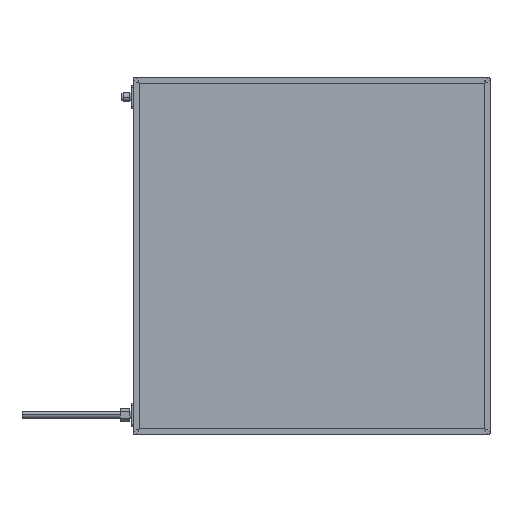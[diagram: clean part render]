
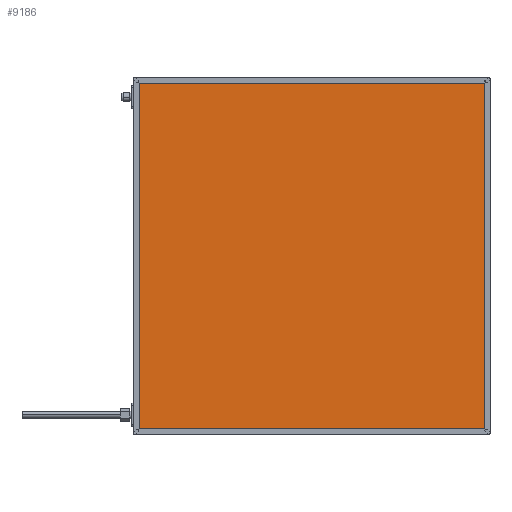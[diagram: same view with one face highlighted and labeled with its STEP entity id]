
A CAD part, top view. The second image highlights one B-rep face of the part: STEP entity #9186.
In plain terms, the highlighted planar face has unit normal (0, 0, 1).
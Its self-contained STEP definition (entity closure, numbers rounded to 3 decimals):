
#13 = CARTESIAN_POINT ( 'NONE',  ( 4., 0., 41.85 ) ) ;
#282 = FACE_OUTER_BOUND ( 'NONE', #9453, .T. ) ;
#743 = DIRECTION ( 'NONE',  ( 1., 0., 0. ) ) ;
#924 = LINE ( 'NONE', #6482, #10968 ) ;
#1026 = CARTESIAN_POINT ( 'NONE',  ( 4., 496., 41.85 ) ) ;
#1321 = EDGE_CURVE ( 'NONE', #17312, #17032, #4122, .T. ) ;
#1384 = CARTESIAN_POINT ( 'NONE',  ( 496., 496., 41.85 ) ) ;
#2800 = ORIENTED_EDGE ( 'NONE', *, *, #11215, .T. ) ;
#3255 = CARTESIAN_POINT ( 'NONE',  ( 4., 4., 41.85 ) ) ;
#4122 = LINE ( 'NONE', #13, #7026 ) ;
#4953 = DIRECTION ( 'NONE',  ( 0., 1., 0. ) ) ;
#6151 = VERTEX_POINT ( 'NONE', #9478 ) ;
#6327 = CARTESIAN_POINT ( 'NONE',  ( 496., 0., 41.85 ) ) ;
#6380 = CARTESIAN_POINT ( 'NONE',  ( 0., 496., 41.85 ) ) ;
#6482 = CARTESIAN_POINT ( 'NONE',  ( 0., 4., 41.85 ) ) ;
#6879 = EDGE_CURVE ( 'NONE', #17478, #17312, #14852, .T. ) ;
#7026 = VECTOR ( 'NONE', #13702, 1000. ) ;
#9186 = ADVANCED_FACE ( 'NONE', ( #282 ), #14235, .F. ) ;
#9453 = EDGE_LOOP ( 'NONE', ( #10856, #13812, #17274, #2800 ) ) ;
#9478 = CARTESIAN_POINT ( 'NONE',  ( 496., 4., 41.85 ) ) ;
#9776 = DIRECTION ( 'NONE',  ( 0., 0., -1. ) ) ;
#10856 = ORIENTED_EDGE ( 'NONE', *, *, #11805, .T. ) ;
#10968 = VECTOR ( 'NONE', #743, 1000. ) ;
#11215 = EDGE_CURVE ( 'NONE', #17032, #6151, #924, .T. ) ;
#11805 = EDGE_CURVE ( 'NONE', #6151, #17478, #16258, .T. ) ;
#12443 = VECTOR ( 'NONE', #4953, 1000. ) ;
#12869 = CARTESIAN_POINT ( 'NONE',  ( 0., 0., 41.85 ) ) ;
#13308 = DIRECTION ( 'NONE',  ( -1., 0., 0. ) ) ;
#13702 = DIRECTION ( 'NONE',  ( 0., -1., 0. ) ) ;
#13812 = ORIENTED_EDGE ( 'NONE', *, *, #6879, .T. ) ;
#14088 = VECTOR ( 'NONE', #13308, 1000. ) ;
#14235 = PLANE ( 'NONE',  #14998 ) ;
#14852 = LINE ( 'NONE', #6380, #14088 ) ;
#14998 = AXIS2_PLACEMENT_3D ( 'NONE', #12869, #9776, #16966 ) ;
#16258 = LINE ( 'NONE', #6327, #12443 ) ;
#16966 = DIRECTION ( 'NONE',  ( -1., 0., 0. ) ) ;
#17032 = VERTEX_POINT ( 'NONE', #3255 ) ;
#17274 = ORIENTED_EDGE ( 'NONE', *, *, #1321, .T. ) ;
#17312 = VERTEX_POINT ( 'NONE', #1026 ) ;
#17478 = VERTEX_POINT ( 'NONE', #1384 ) ;
